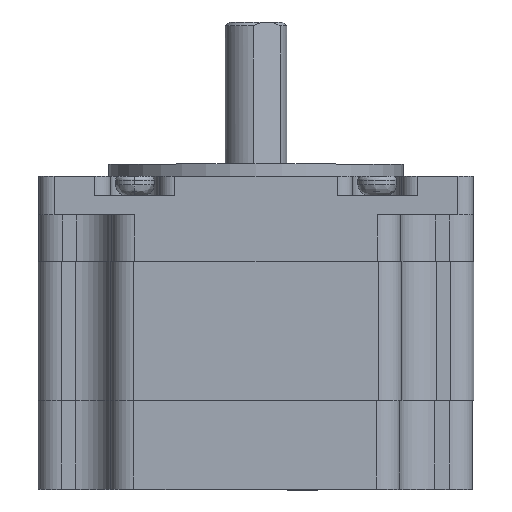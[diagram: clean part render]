
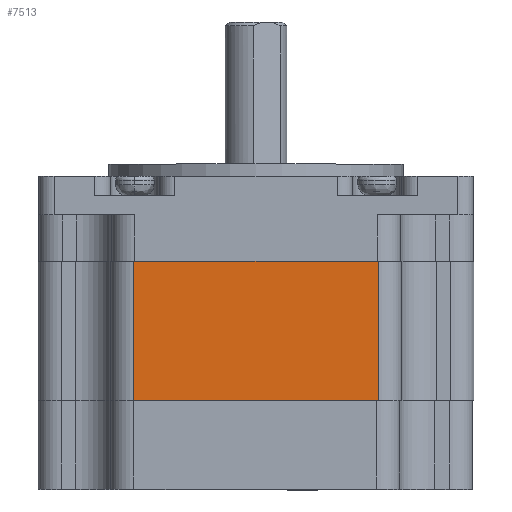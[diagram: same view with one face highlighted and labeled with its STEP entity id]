
A CAD part, top view. The second image highlights one B-rep face of the part: STEP entity #7513.
In plain terms, the highlighted planar face has unit normal (0, 0, 1).
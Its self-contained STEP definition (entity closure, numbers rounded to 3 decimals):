
#43 = DIRECTION ( 'NONE',  ( 0., 1., 0. ) ) ;
#812 = CARTESIAN_POINT ( 'NONE',  ( -15.8, 5., 28.2 ) ) ;
#895 = CARTESIAN_POINT ( 'NONE',  ( 15.8, 23., 28.2 ) ) ;
#1890 = ORIENTED_EDGE ( 'NONE', *, *, #6356, .T. ) ;
#2759 = LINE ( 'NONE', #8097, #4836 ) ;
#2976 = VECTOR ( 'NONE', #5385, 1000. ) ;
#3130 = LINE ( 'NONE', #4701, #9402 ) ;
#3435 = EDGE_LOOP ( 'NONE', ( #4512, #4921, #4671, #1890 ) ) ;
#3724 = CARTESIAN_POINT ( 'NONE',  ( 18.8, 23., 28.2 ) ) ;
#4490 = CARTESIAN_POINT ( 'NONE',  ( 18.8, 23., 28.2 ) ) ;
#4512 = ORIENTED_EDGE ( 'NONE', *, *, #4528, .F. ) ;
#4528 = EDGE_CURVE ( 'NONE', #6774, #7306, #2759, .T. ) ;
#4615 = DIRECTION ( 'NONE',  ( -1., 0., 0. ) ) ;
#4671 = ORIENTED_EDGE ( 'NONE', *, *, #6817, .F. ) ;
#4701 = CARTESIAN_POINT ( 'NONE',  ( -23.3, 5., 28.2 ) ) ;
#4717 = AXIS2_PLACEMENT_3D ( 'NONE', #3724, #9656, #4615 ) ;
#4836 = VECTOR ( 'NONE', #8135, 1000. ) ;
#4921 = ORIENTED_EDGE ( 'NONE', *, *, #6854, .F. ) ;
#5385 = DIRECTION ( 'NONE',  ( 1., 0., 0. ) ) ;
#5592 = LINE ( 'NONE', #4490, #2976 ) ;
#5862 = LINE ( 'NONE', #6163, #9756 ) ;
#6163 = CARTESIAN_POINT ( 'NONE',  ( -15.8, 23., 28.2 ) ) ;
#6280 = PLANE ( 'NONE',  #4717 ) ;
#6356 = EDGE_CURVE ( 'NONE', #8200, #7306, #3130, .T. ) ;
#6774 = VERTEX_POINT ( 'NONE', #895 ) ;
#6817 = EDGE_CURVE ( 'NONE', #8200, #8412, #5862, .T. ) ;
#6854 = EDGE_CURVE ( 'NONE', #8412, #6774, #5592, .T. ) ;
#7306 = VERTEX_POINT ( 'NONE', #8612 ) ;
#7344 = CARTESIAN_POINT ( 'NONE',  ( -15.8, 23., 28.2 ) ) ;
#7513 = ADVANCED_FACE ( 'NONE', ( #8817 ), #6280, .F. ) ;
#8097 = CARTESIAN_POINT ( 'NONE',  ( 15.8, 23., 28.2 ) ) ;
#8135 = DIRECTION ( 'NONE',  ( 0., -1., 0. ) ) ;
#8200 = VERTEX_POINT ( 'NONE', #812 ) ;
#8412 = VERTEX_POINT ( 'NONE', #7344 ) ;
#8612 = CARTESIAN_POINT ( 'NONE',  ( 15.8, 5., 28.2 ) ) ;
#8817 = FACE_OUTER_BOUND ( 'NONE', #3435, .T. ) ;
#8948 = DIRECTION ( 'NONE',  ( 1., 0., 0. ) ) ;
#9402 = VECTOR ( 'NONE', #8948, 1000. ) ;
#9656 = DIRECTION ( 'NONE',  ( 0., 0., -1. ) ) ;
#9756 = VECTOR ( 'NONE', #43, 1000. ) ;
